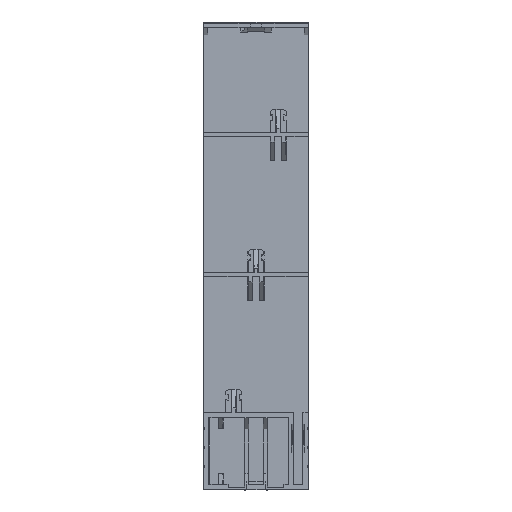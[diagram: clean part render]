
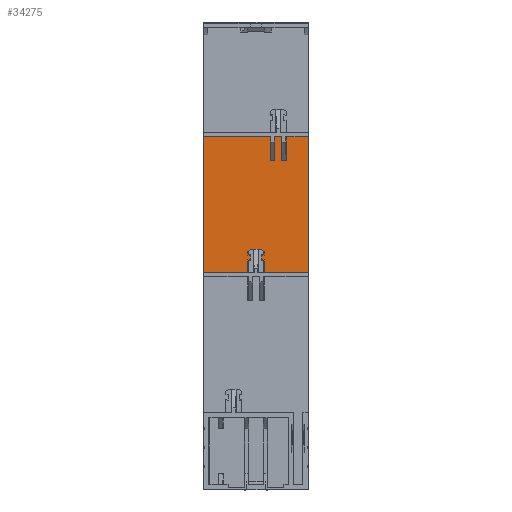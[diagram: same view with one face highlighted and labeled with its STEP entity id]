
A CAD part, front view. The second image highlights one B-rep face of the part: STEP entity #34275.
In plain terms, the highlighted planar face has unit normal (0, -1, 0).
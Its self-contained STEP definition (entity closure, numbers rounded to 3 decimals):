
#470 = EDGE_LOOP ( 'NONE', ( #19344, #9015, #11531, #79322, #36785, #66277, #51387, #43882, #25739, #70619, #35718, #52543 ) ) ;
#2198 = CARTESIAN_POINT ( 'NONE',  ( 22.5, -4.5, 93. ) ) ;
#3928 = EDGE_CURVE ( 'NONE', #35935, #8798, #43936, .T. ) ;
#4568 = VERTEX_POINT ( 'NONE', #59774 ) ;
#7147 = DIRECTION ( 'NONE',  ( 0., 0., 1. ) ) ;
#7424 = VERTEX_POINT ( 'NONE', #66761 ) ;
#8798 = VERTEX_POINT ( 'NONE', #33418 ) ;
#8871 = DIRECTION ( 'NONE',  ( 1., 0., 0. ) ) ;
#9015 = ORIENTED_EDGE ( 'NONE', *, *, #3928, .T. ) ;
#9417 = DIRECTION ( 'NONE',  ( 0., -1., 0. ) ) ;
#9470 = CARTESIAN_POINT ( 'NONE',  ( 224.594, -4.5, 151.209 ) ) ;
#9694 = CARTESIAN_POINT ( 'NONE',  ( 10.959, -4.5, 151.209 ) ) ;
#9963 = DIRECTION ( 'NONE',  ( 0., 0., -1. ) ) ;
#10723 = EDGE_CURVE ( 'NONE', #41278, #28490, #21895, .T. ) ;
#11531 = ORIENTED_EDGE ( 'NONE', *, *, #16579, .T. ) ;
#12866 = FACE_OUTER_BOUND ( 'NONE', #470, .T. ) ;
#14214 = LINE ( 'NONE', #63362, #51248 ) ;
#16579 = EDGE_CURVE ( 'NONE', #8798, #58302, #87062, .T. ) ;
#17497 = VECTOR ( 'NONE', #8871, 1000. ) ;
#19344 = ORIENTED_EDGE ( 'NONE', *, *, #45160, .T. ) ;
#21235 = EDGE_CURVE ( 'NONE', #74006, #87358, #39209, .T. ) ;
#21895 = LINE ( 'NONE', #31547, #76781 ) ;
#24887 = EDGE_CURVE ( 'NONE', #47445, #4568, #14214, .T. ) ;
#25739 = ORIENTED_EDGE ( 'NONE', *, *, #50091, .T. ) ;
#26183 = CARTESIAN_POINT ( 'NONE',  ( 6.059, -4.5, 141.175 ) ) ;
#26519 = DIRECTION ( 'NONE',  ( -1., 0., 0. ) ) ;
#26552 = CARTESIAN_POINT ( 'NONE',  ( 224.594, -4.5, 141.175 ) ) ;
#26649 = LINE ( 'NONE', #35379, #65883 ) ;
#28490 = VERTEX_POINT ( 'NONE', #81104 ) ;
#29393 = VERTEX_POINT ( 'NONE', #9694 ) ;
#30105 = EDGE_CURVE ( 'NONE', #7424, #70296, #31553, .T. ) ;
#30340 = CARTESIAN_POINT ( 'NONE',  ( -22.5, -4.5, 200. ) ) ;
#30991 = CARTESIAN_POINT ( 'NONE',  ( 12.941, -4.5, 200.5 ) ) ;
#31529 = CARTESIAN_POINT ( 'NONE',  ( 224.594, -4.5, 151.209 ) ) ;
#31547 = CARTESIAN_POINT ( 'NONE',  ( 8.041, -4.5, 200.5 ) ) ;
#31553 = LINE ( 'NONE', #9470, #37115 ) ;
#32926 = LINE ( 'NONE', #30991, #81187 ) ;
#33418 = CARTESIAN_POINT ( 'NONE',  ( -22.5, -4.5, 93. ) ) ;
#34275 = ADVANCED_FACE ( 'NONE', ( #12866 ), #52071, .T. ) ;
#34487 = DIRECTION ( 'NONE',  ( -1., 0., 0. ) ) ;
#34736 = EDGE_CURVE ( 'NONE', #70296, #47445, #32926, .T. ) ;
#35379 = CARTESIAN_POINT ( 'NONE',  ( 22.5, -4.5, 200.5 ) ) ;
#35718 = ORIENTED_EDGE ( 'NONE', *, *, #90119, .T. ) ;
#35935 = VERTEX_POINT ( 'NONE', #56907 ) ;
#36785 = ORIENTED_EDGE ( 'NONE', *, *, #30105, .T. ) ;
#37115 = VECTOR ( 'NONE', #66262, 1000. ) ;
#37544 = DIRECTION ( 'NONE',  ( 0., 0., -1. ) ) ;
#38243 = DIRECTION ( 'NONE',  ( 0., 0., -1. ) ) ;
#39008 = VECTOR ( 'NONE', #76390, 1000. ) ;
#39209 = LINE ( 'NONE', #87171, #59452 ) ;
#39428 = VECTOR ( 'NONE', #37544, 1000. ) ;
#39634 = DIRECTION ( 'NONE',  ( -1., 0., 0. ) ) ;
#39726 = CARTESIAN_POINT ( 'NONE',  ( 12.941, -4.5, 141.175 ) ) ;
#41278 = VERTEX_POINT ( 'NONE', #89089 ) ;
#41842 = CARTESIAN_POINT ( 'NONE',  ( 224.594, -4.5, 151.209 ) ) ;
#42299 = VECTOR ( 'NONE', #26519, 1000. ) ;
#43882 = ORIENTED_EDGE ( 'NONE', *, *, #48329, .T. ) ;
#43936 = LINE ( 'NONE', #30340, #39428 ) ;
#45160 = EDGE_CURVE ( 'NONE', #87358, #35935, #50155, .T. ) ;
#45755 = LINE ( 'NONE', #26552, #39008 ) ;
#47445 = VERTEX_POINT ( 'NONE', #39726 ) ;
#48329 = EDGE_CURVE ( 'NONE', #4568, #29393, #90339, .T. ) ;
#48528 = LINE ( 'NONE', #31529, #62054 ) ;
#50091 = EDGE_CURVE ( 'NONE', #29393, #41278, #48528, .T. ) ;
#50155 = LINE ( 'NONE', #41842, #42299 ) ;
#51248 = VECTOR ( 'NONE', #34487, 1000. ) ;
#51387 = ORIENTED_EDGE ( 'NONE', *, *, #24887, .T. ) ;
#52071 = PLANE ( 'NONE',  #72440 ) ;
#52543 = ORIENTED_EDGE ( 'NONE', *, *, #21235, .T. ) ;
#55455 = VECTOR ( 'NONE', #58014, 1000. ) ;
#56907 = CARTESIAN_POINT ( 'NONE',  ( -22.5, -4.5, 151.209 ) ) ;
#58014 = DIRECTION ( 'NONE',  ( 0., 0., 1. ) ) ;
#58033 = CARTESIAN_POINT ( 'NONE',  ( 12.941, -4.5, 151.209 ) ) ;
#58302 = VERTEX_POINT ( 'NONE', #2198 ) ;
#58638 = CARTESIAN_POINT ( 'NONE',  ( 10.959, -4.5, 200.5 ) ) ;
#59452 = VECTOR ( 'NONE', #81774, 1000. ) ;
#59774 = CARTESIAN_POINT ( 'NONE',  ( 10.959, -4.5, 141.175 ) ) ;
#62054 = VECTOR ( 'NONE', #39634, 1000. ) ;
#63362 = CARTESIAN_POINT ( 'NONE',  ( 224.594, -4.5, 141.175 ) ) ;
#65883 = VECTOR ( 'NONE', #7147, 1000. ) ;
#66262 = DIRECTION ( 'NONE',  ( -1., 0., 0. ) ) ;
#66277 = ORIENTED_EDGE ( 'NONE', *, *, #34736, .T. ) ;
#66761 = CARTESIAN_POINT ( 'NONE',  ( 22.5, -4.5, 151.209 ) ) ;
#70296 = VERTEX_POINT ( 'NONE', #58033 ) ;
#70619 = ORIENTED_EDGE ( 'NONE', *, *, #10723, .T. ) ;
#72159 = EDGE_CURVE ( 'NONE', #58302, #7424, #26649, .T. ) ;
#72440 = AXIS2_PLACEMENT_3D ( 'NONE', #73718, #9417, #38243 ) ;
#73718 = CARTESIAN_POINT ( 'NONE',  ( 224.594, -4.5, 200.5 ) ) ;
#74006 = VERTEX_POINT ( 'NONE', #26183 ) ;
#74406 = CARTESIAN_POINT ( 'NONE',  ( 6.059, -4.5, 151.209 ) ) ;
#76390 = DIRECTION ( 'NONE',  ( -1., 0., 0. ) ) ;
#76781 = VECTOR ( 'NONE', #81725, 1000. ) ;
#79322 = ORIENTED_EDGE ( 'NONE', *, *, #72159, .T. ) ;
#80697 = CARTESIAN_POINT ( 'NONE',  ( 25.5, -4.5, 93. ) ) ;
#81104 = CARTESIAN_POINT ( 'NONE',  ( 8.041, -4.5, 141.175 ) ) ;
#81187 = VECTOR ( 'NONE', #9963, 1000. ) ;
#81725 = DIRECTION ( 'NONE',  ( 0., 0., -1. ) ) ;
#81774 = DIRECTION ( 'NONE',  ( 0., 0., 1. ) ) ;
#87062 = LINE ( 'NONE', #80697, #17497 ) ;
#87171 = CARTESIAN_POINT ( 'NONE',  ( 6.059, -4.5, 200.5 ) ) ;
#87358 = VERTEX_POINT ( 'NONE', #74406 ) ;
#89089 = CARTESIAN_POINT ( 'NONE',  ( 8.041, -4.5, 151.209 ) ) ;
#90119 = EDGE_CURVE ( 'NONE', #28490, #74006, #45755, .T. ) ;
#90339 = LINE ( 'NONE', #58638, #55455 ) ;
